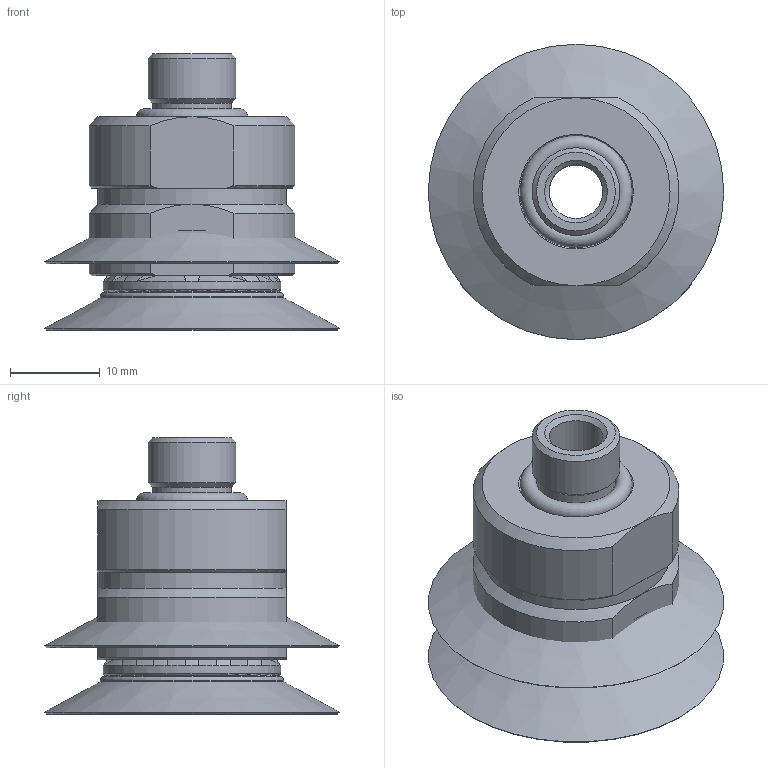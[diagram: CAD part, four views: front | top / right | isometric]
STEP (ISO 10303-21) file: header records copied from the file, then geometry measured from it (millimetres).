
FILE_DESCRIPTION( ( 'Unknown' ), '1' );
FILE_NAME( 'C:/Documents and Settings/Administrator/官帕 拳搁/Magic Cup (Dim)/B1.5/U TYPE/B1.5-20/B1.5-20-U30-N6-C-F2-18M.stp', 'Unknown', ( 'Unknown' ), ( 'Unknown' ), 'XStep 1.0', 'Unknown', ' ' );
FILE_SCHEMA( ( 'automotive_design' ) );
Length unit declared in the file: millimetre
Products named in the file (8): Assem1; Assem2; Assem3; U30(DIM); 赤20 STOPPER ; B1.5-20(DIM); 20-18M(DIM); 18M-Oring(DIM)
Bounding box: 33 x 33 x 30.83 mm (x, y, z)
Volume: 19124.9 mm3; surface area: 21800.7 mm2
Topology: 15 solids, 15 shells, 519 faces, 1212 edges, 777 vertices
Faces by surface type: cone 177, plane 147, torus 117, cylinder 78
Full cylindrical faces by diameter (mm): 6 x6, 8.8 x3, 9.8 x6, 10 x3, 11 x3, 11.9 x6, 12.4 x3, 13 x3, 13.4 x3, 14.4 x3, 15 x6, 15.7 x3, 16 x3, 17 x3, 17.5 x3, 18 x3, 19.8 x3, 20.5 x3, 21 x3, 23 x3
Entity records: 5831 total; most frequent: CARTESIAN_POINT 1383, DIRECTION 736, ORIENTED_EDGE 654, AXIS2_PLACEMENT_3D 356, EDGE_CURVE 327, EDGE_LOOP 270, VERTEX_POINT 253, FACE_OUTER_BOUND 222
